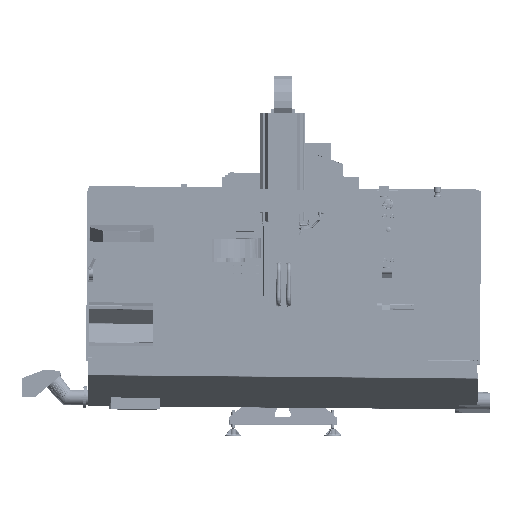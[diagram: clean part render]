
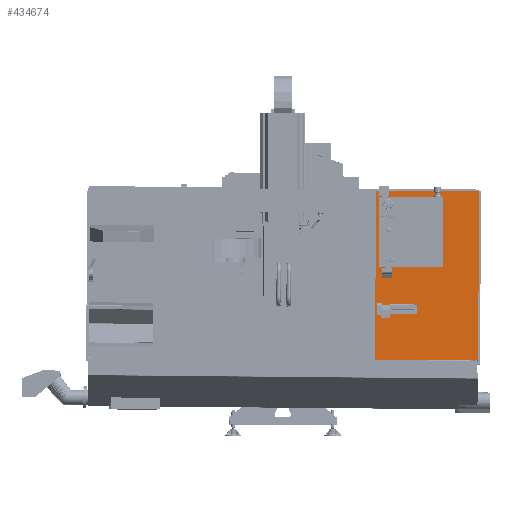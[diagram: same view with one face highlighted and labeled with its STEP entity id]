
A CAD part, top view. The second image highlights one B-rep face of the part: STEP entity #434674.
In plain terms, the highlighted planar face has unit normal (0, 0, 1).
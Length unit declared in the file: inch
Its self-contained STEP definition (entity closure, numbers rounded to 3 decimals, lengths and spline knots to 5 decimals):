
#14812 = ORIENTED_EDGE ( 'NONE', *, *, #489184, .F. ) ;
#24000 = LINE ( 'NONE', #234846, #57729 ) ;
#30466 = FACE_OUTER_BOUND ( 'NONE', #396950, .T. ) ;
#36317 = LINE ( 'NONE', #91691, #442823 ) ;
#49717 = LINE ( 'NONE', #678434, #129958 ) ;
#57729 = VECTOR ( 'NONE', #182964, 39.37008 ) ;
#59580 = DIRECTION ( 'NONE',  ( 0.009, 1., 0. ) ) ;
#64824 = ORIENTED_EDGE ( 'NONE', *, *, #161378, .T. ) ;
#69582 = EDGE_CURVE ( 'NONE', #521775, #540260, #236363, .T. ) ;
#81104 = VERTEX_POINT ( 'NONE', #168885 ) ;
#85462 = CARTESIAN_POINT ( 'NONE',  ( 27.32367, -1.55508, 41.92395 ) ) ;
#91691 = CARTESIAN_POINT ( 'NONE',  ( 36.63816, 48.73032, 41.91963 ) ) ;
#92550 = DIRECTION ( 'NONE',  ( 1., -0.009, 0. ) ) ;
#95573 = LINE ( 'NONE', #409835, #324095 ) ;
#97307 = CARTESIAN_POINT ( 'NONE',  ( 58.13884, 48.5412, 41.91963 ) ) ;
#97478 = EDGE_CURVE ( 'NONE', #556878, #631433, #521768, .T. ) ;
#100092 = DIRECTION ( 'NONE',  ( 0., -1., 0. ) ) ;
#102019 = PLANE ( 'NONE',  #295149 ) ;
#104379 = EDGE_CURVE ( 'NONE', #663491, #171222, #518021, .T. ) ;
#112245 = CARTESIAN_POINT ( 'NONE',  ( 57.64307, -1.55507, 41.92393 ) ) ;
#115261 = ORIENTED_EDGE ( 'NONE', *, *, #104379, .F. ) ;
#122288 = EDGE_CURVE ( 'NONE', #537183, #556878, #236026, .T. ) ;
#128677 = VERTEX_POINT ( 'NONE', #543568 ) ;
#129958 = VECTOR ( 'NONE', #426187, 39.37008 ) ;
#130368 = VECTOR ( 'NONE', #446708, 39.37008 ) ;
#130853 = DIRECTION ( 'NONE',  ( 0., 0., -1. ) ) ;
#133009 = VERTEX_POINT ( 'NONE', #398202 ) ;
#133555 = ORIENTED_EDGE ( 'NONE', *, *, #140751, .F. ) ;
#139846 = CARTESIAN_POINT ( 'NONE',  ( 58.23754, 48.70966, 41.91962 ) ) ;
#140751 = EDGE_CURVE ( 'NONE', #521775, #275017, #147930, .T. ) ;
#144318 = CARTESIAN_POINT ( 'NONE',  ( 27.66581, 48.70966, 41.91964 ) ) ;
#147381 = DIRECTION ( 'NONE',  ( 0., -1., 0. ) ) ;
#147930 = LINE ( 'NONE', #469071, #246592 ) ;
#154919 = VECTOR ( 'NONE', #509045, 39.37008 ) ;
#161378 = EDGE_CURVE ( 'NONE', #81104, #128677, #193232, .T. ) ;
#168885 = CARTESIAN_POINT ( 'NONE',  ( 27.32474, 9.93343, 41.92297 ) ) ;
#171222 = VERTEX_POINT ( 'NONE', #222882 ) ;
#172501 = CARTESIAN_POINT ( 'NONE',  ( 27.76451, 48.70966, 41.91964 ) ) ;
#182964 = DIRECTION ( 'NONE',  ( -0.009, -1., 0. ) ) ;
#189362 = LINE ( 'NONE', #627775, #466584 ) ;
#193232 = LINE ( 'NONE', #507540, #200261 ) ;
#200261 = VECTOR ( 'NONE', #559417, 39.37008 ) ;
#202761 = VECTOR ( 'NONE', #567995, 39.37008 ) ;
#220469 = CARTESIAN_POINT ( 'NONE',  ( 57.69907, -1.55557, 41.92393 ) ) ;
#222882 = CARTESIAN_POINT ( 'NONE',  ( 58.13884, 37.22067, 41.9206 ) ) ;
#234846 = CARTESIAN_POINT ( 'NONE',  ( 58.23753, 48.44163, 41.91964 ) ) ;
#235203 = EDGE_CURVE ( 'NONE', #275017, #237219, #36317, .T. ) ;
#236026 = LINE ( 'NONE', #546963, #130368 ) ;
#236363 = LINE ( 'NONE', #602470, #154919 ) ;
#237219 = VERTEX_POINT ( 'NONE', #352642 ) ;
#246592 = VECTOR ( 'NONE', #683063, 39.37008 ) ;
#253349 = ORIENTED_EDGE ( 'NONE', *, *, #343427, .T. ) ;
#254829 = ORIENTED_EDGE ( 'NONE', *, *, #97478, .F. ) ;
#275017 = VERTEX_POINT ( 'NONE', #467621 ) ;
#294102 = ORIENTED_EDGE ( 'NONE', *, *, #499879, .F. ) ;
#295149 = AXIS2_PLACEMENT_3D ( 'NONE', #669419, #130853, #348293 ) ;
#302770 = VECTOR ( 'NONE', #59580, 39.37008 ) ;
#317585 = CARTESIAN_POINT ( 'NONE',  ( 58.13884, 48.80836, 41.91961 ) ) ;
#320075 = VERTEX_POINT ( 'NONE', #144318 ) ;
#324095 = VECTOR ( 'NONE', #147381, 39.37008 ) ;
#325598 = LINE ( 'NONE', #377447, #302770 ) ;
#338438 = VECTOR ( 'NONE', #473327, 39.37008 ) ;
#343427 = EDGE_CURVE ( 'NONE', #540260, #320075, #664813, .T. ) ;
#348293 = DIRECTION ( 'NONE',  ( 0., 1., 0. ) ) ;
#352642 = CARTESIAN_POINT ( 'NONE',  ( 56.98845, 48.55132, 41.91963 ) ) ;
#353743 = LINE ( 'NONE', #612810, #645045 ) ;
#363379 = VERTEX_POINT ( 'NONE', #564076 ) ;
#377447 = CARTESIAN_POINT ( 'NONE',  ( 27.66582, 48.71053, 41.91964 ) ) ;
#390804 = ORIENTED_EDGE ( 'NONE', *, *, #235203, .F. ) ;
#396950 = EDGE_LOOP ( 'NONE', ( #115261, #14812, #390804, #133555, #621417, #253349, #433710, #64824, #589572, #254829, #611042, #574597, #294102, #404897 ) ) ;
#398202 = CARTESIAN_POINT ( 'NONE',  ( 57.79777, -1.55576, 41.92385 ) ) ;
#404897 = ORIENTED_EDGE ( 'NONE', *, *, #646513, .F. ) ;
#407860 = CARTESIAN_POINT ( 'NONE',  ( 42.73179, -1.55507, 41.92394 ) ) ;
#409835 = CARTESIAN_POINT ( 'NONE',  ( 27.32474, 48.80836, 41.91963 ) ) ;
#426187 = DIRECTION ( 'NONE',  ( -1., 0.009, 0. ) ) ;
#426229 = EDGE_CURVE ( 'NONE', #363379, #537183, #49717, .T. ) ;
#433710 = ORIENTED_EDGE ( 'NONE', *, *, #544187, .F. ) ;
#434674 = ADVANCED_FACE ( 'NONE', ( #30466 ), #102019, .F. ) ;
#442823 = VECTOR ( 'NONE', #613271, 39.37008 ) ;
#446708 = DIRECTION ( 'NONE',  ( -1., 0.009, 0. ) ) ;
#466584 = VECTOR ( 'NONE', #92550, 39.37008 ) ;
#467621 = CARTESIAN_POINT ( 'NONE',  ( 56.96061, 48.55157, 41.91963 ) ) ;
#469071 = CARTESIAN_POINT ( 'NONE',  ( 58.1637, 48.54099, 41.91963 ) ) ;
#473327 = DIRECTION ( 'NONE',  ( -1., 0., 0. ) ) ;
#489184 = EDGE_CURVE ( 'NONE', #237219, #663491, #189362, .T. ) ;
#499879 = EDGE_CURVE ( 'NONE', #133009, #363379, #353743, .T. ) ;
#507540 = CARTESIAN_POINT ( 'NONE',  ( 27.32474, 48.80836, 41.91963 ) ) ;
#509045 = DIRECTION ( 'NONE',  ( -1., 0., 0. ) ) ;
#510418 = EDGE_CURVE ( 'NONE', #128677, #631433, #95573, .T. ) ;
#518021 = LINE ( 'NONE', #317585, #519208 ) ;
#519208 = VECTOR ( 'NONE', #100092, 39.37008 ) ;
#521768 = LINE ( 'NONE', #407860, #338438 ) ;
#521775 = VERTEX_POINT ( 'NONE', #617277 ) ;
#537183 = VERTEX_POINT ( 'NONE', #220469 ) ;
#540260 = VERTEX_POINT ( 'NONE', #172501 ) ;
#543568 = CARTESIAN_POINT ( 'NONE',  ( 27.32474, -1.2884, 41.92393 ) ) ;
#544187 = EDGE_CURVE ( 'NONE', #81104, #320075, #325598, .T. ) ;
#546963 = CARTESIAN_POINT ( 'NONE',  ( 57.72307, -1.55578, 41.92393 ) ) ;
#556878 = VERTEX_POINT ( 'NONE', #112245 ) ;
#559417 = DIRECTION ( 'NONE',  ( 0., -1., 0. ) ) ;
#564076 = CARTESIAN_POINT ( 'NONE',  ( 57.72307, -1.55507, 41.92393 ) ) ;
#567995 = DIRECTION ( 'NONE',  ( -1., 0., 0. ) ) ;
#574597 = ORIENTED_EDGE ( 'NONE', *, *, #426229, .F. ) ;
#589572 = ORIENTED_EDGE ( 'NONE', *, *, #510418, .T. ) ;
#602470 = CARTESIAN_POINT ( 'NONE',  ( 58.23754, 48.70966, 41.91962 ) ) ;
#611042 = ORIENTED_EDGE ( 'NONE', *, *, #122288, .F. ) ;
#612810 = CARTESIAN_POINT ( 'NONE',  ( 42.73179, -1.55507, 41.92394 ) ) ;
#613271 = DIRECTION ( 'NONE',  ( 1., -0.009, 0. ) ) ;
#617277 = CARTESIAN_POINT ( 'NONE',  ( 38.98634, 48.70966, 41.91963 ) ) ;
#621417 = ORIENTED_EDGE ( 'NONE', *, *, #69582, .T. ) ;
#627775 = CARTESIAN_POINT ( 'NONE',  ( 58.1637, 48.54099, 41.91963 ) ) ;
#631433 = VERTEX_POINT ( 'NONE', #85462 ) ;
#645045 = VECTOR ( 'NONE', #668025, 39.37008 ) ;
#646513 = EDGE_CURVE ( 'NONE', #171222, #133009, #24000, .T. ) ;
#663491 = VERTEX_POINT ( 'NONE', #97307 ) ;
#664813 = LINE ( 'NONE', #139846, #202761 ) ;
#668025 = DIRECTION ( 'NONE',  ( -1., 0., 0. ) ) ;
#669419 = CARTESIAN_POINT ( 'NONE',  ( 42.73179, 22.99639, 41.92183 ) ) ;
#678434 = CARTESIAN_POINT ( 'NONE',  ( 57.69907, -1.55557, 41.92393 ) ) ;
#683063 = DIRECTION ( 'NONE',  ( 1., -0.009, 0. ) ) ;
